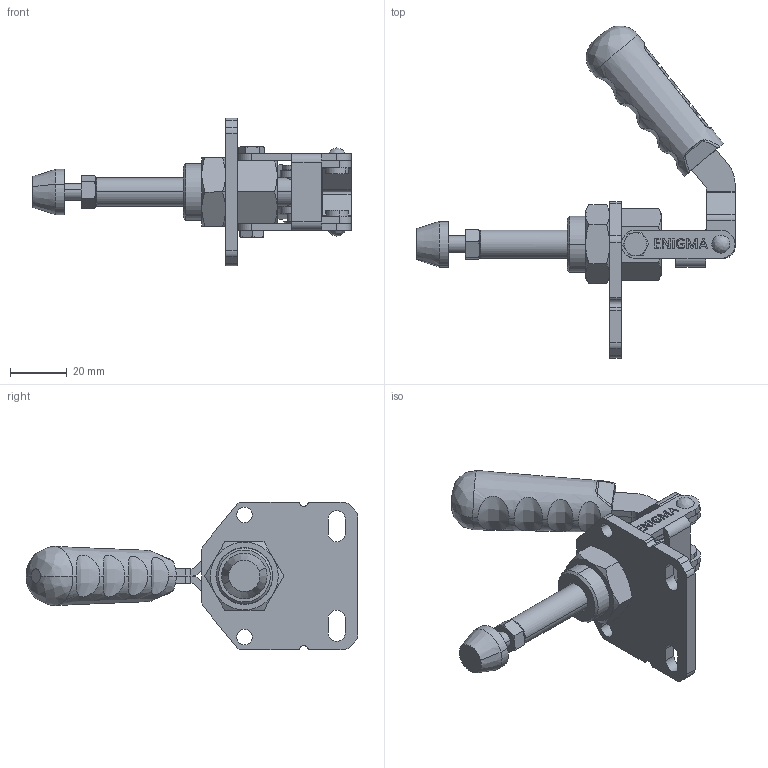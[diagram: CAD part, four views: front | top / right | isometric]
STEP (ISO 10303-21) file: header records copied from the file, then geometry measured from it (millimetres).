
FILE_DESCRIPTION (( 'STEP AP203' ), '1' );
FILE_NAME ('16010_D.STEP', '2022-11-26T19:02:07', ( '' ), ( '' ), 'SwSTEP 2.0', 'SolidWorks 2023', '' );
FILE_SCHEMA (( 'CONFIG_CONTROL_DESIGN' ));
Length unit declared in the file: millimetre
Products named in the file (14): C55_Yeni_Tutamak_Varsay_X2_0131_X0_lan; 16010_MAFSAL_Varsay_X2_0131_X0_lan; 5x22_PER_X2_00c70130_X0_N_Varsay_X2_0131_X0_lan; 16010_Y_TABAN_Varsay_X2_0131_X0_lan; Aynalama16010_HAREKET_KOLU_Varsay_X2_0131_X0_lan; 16010_D; 5x7_5_DOLU_PER_X2_00c70130_X0_N_Varsay_X2_0131_X0_lan; M6_BASKI_PABUCU_Varsay_X2_0131_X0_lan; M20x1_5x8_Kontra_Somun_Varsay_X2_0131_X0_lan; M4x5x10_Kademeli_Civata_Varsay_X2_0131_X0_lan; M6_SOMUN; 16010_Alt_X2_0131_X0_genG_X2_00f6_X0_vde_Varsay_X2_0131_X0_lan; 16010_HAREKET_KOLU_Varsay_X2_0131_X0_lan; 16010__X2_00d8_X0_10_Mil_Varsay_X2_0131_X0_lan
Assembly tree (15 placements, depth 2):
  16010_D
    16010_Y_TABAN_Varsay_X2_0131_X0_lan
    16010_HAREKET_KOLU_Varsay_X2_0131_X0_lan
    16010_MAFSAL_Varsay_X2_0131_X0_lan
    16010_Alt_X2_0131_X0_genG_X2_00f6_X0_vde_Varsay_X2_0131_X0_lan
    16010__X2_00d8_X0_10_Mil_Varsay_X2_0131_X0_lan
    M4x5x10_Kademeli_Civata_Varsay_X2_0131_X0_lan  x2
    C55_Yeni_Tutamak_Varsay_X2_0131_X0_lan
    M6_BASKI_PABUCU_Varsay_X2_0131_X0_lan
    M6_SOMUN
    Aynalama16010_HAREKET_KOLU_Varsay_X2_0131_X0_lan
    5x7_5_DOLU_PER_X2_00c70130_X0_N_Varsay_X2_0131_X0_lan  x2
    5x22_PER_X2_00c70130_X0_N_Varsay_X2_0131_X0_lan
    M20x1_5x8_Kontra_Somun_Varsay_X2_0131_X0_lan
Bounding box: 112 x 116.86 x 52 mm (x, y, z)
Volume: 50488.3 mm3; surface area: 32264.7 mm2
Topology: 15 solids, 15 shells, 620 faces, 1578 edges, 1015 vertices
Faces by surface type: plane 311, cylinder 155, bspline 78, cone 76
Entity records: 27360 total; most frequent: CARTESIAN_POINT 11852, ORIENTED_EDGE 3020, DIRECTION 2695, EDGE_CURVE 1510, VERTEX_POINT 974, LINE 909, VECTOR 909, AXIS2_PLACEMENT_3D 893
